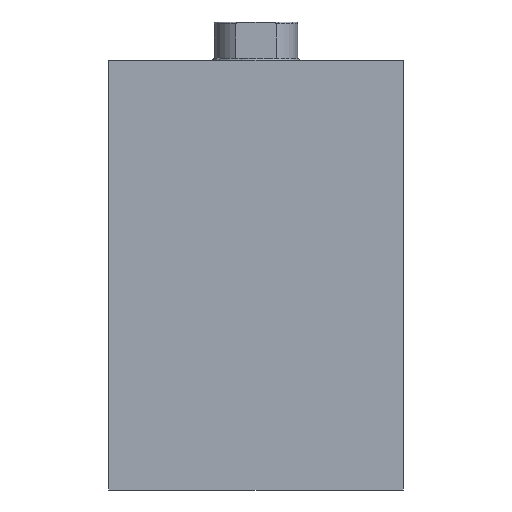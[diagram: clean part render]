
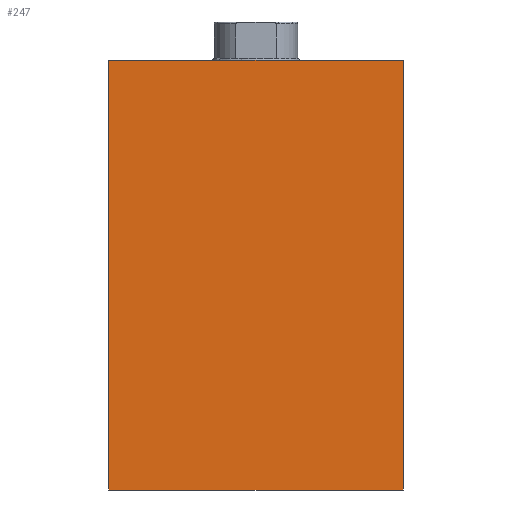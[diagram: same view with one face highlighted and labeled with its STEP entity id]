
A CAD part, left-side view. The second image highlights one B-rep face of the part: STEP entity #247.
In plain terms, the highlighted planar face has unit normal (-1, 0, 0) as drawn and (0, 0, -1) by its records, which use the part's own axes.
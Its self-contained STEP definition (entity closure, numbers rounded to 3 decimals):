
#247 = ADVANCED_FACE( '', ( #338 ), #339, .F. );
#338 = FACE_OUTER_BOUND( '', #554, .T. );
#339 = PLANE( '', #555 );
#554 = EDGE_LOOP( '', ( #789, #790, #791, #792 ) );
#555 = AXIS2_PLACEMENT_3D( '', #793, #794, #795 );
#789 = ORIENTED_EDGE( '', *, *, #1166, .T. );
#790 = ORIENTED_EDGE( '', *, *, #1183, .F. );
#791 = ORIENTED_EDGE( '', *, *, #1178, .F. );
#792 = ORIENTED_EDGE( '', *, *, #1182, .T. );
#793 = CARTESIAN_POINT( '', ( 124., -42.5, -31.5 ) );
#794 = DIRECTION( '', ( 0., 0., 1. ) );
#795 = DIRECTION( '', ( 1., 0., 0. ) );
#1166 = EDGE_CURVE( '', #1267, #1265, #1268, .T. );
#1178 = EDGE_CURVE( '', #1287, #1289, #1290, .T. );
#1182 = EDGE_CURVE( '', #1287, #1267, #1296, .T. );
#1183 = EDGE_CURVE( '', #1289, #1265, #1297, .T. );
#1265 = VERTEX_POINT( '', #1510 );
#1267 = VERTEX_POINT( '', #1513 );
#1268 = LINE( '', #1514, #1515 );
#1287 = VERTEX_POINT( '', #1706 );
#1289 = VERTEX_POINT( '', #1709 );
#1290 = LINE( '', #1710, #1711 );
#1296 = B_SPLINE_CURVE_WITH_KNOTS( '', 1, ( #1784, #1785 ), .UNSPECIFIED., .F., .F., ( 2, 2 ), ( 0., 1. ), .UNSPECIFIED. );
#1297 = B_SPLINE_CURVE_WITH_KNOTS( '', 1, ( #1786, #1787 ), .UNSPECIFIED., .F., .F., ( 2, 2 ), ( 0., 1. ), .UNSPECIFIED. );
#1510 = CARTESIAN_POINT( '', ( 0., 42.5, -31.5 ) );
#1513 = CARTESIAN_POINT( '', ( 0., -42.5, -31.5 ) );
#1514 = CARTESIAN_POINT( '', ( 0., -42.5, -31.5 ) );
#1515 = VECTOR( '', #4022, 1000. );
#1706 = CARTESIAN_POINT( '', ( 124., -42.5, -31.5 ) );
#1709 = CARTESIAN_POINT( '', ( 124., 42.5, -31.5 ) );
#1710 = CARTESIAN_POINT( '', ( 124., -42.5, -31.5 ) );
#1711 = VECTOR( '', #4029, 1000. );
#1784 = CARTESIAN_POINT( '', ( 124., -42.5, -31.5 ) );
#1785 = CARTESIAN_POINT( '', ( 0., -42.5, -31.5 ) );
#1786 = CARTESIAN_POINT( '', ( 124., 42.5, -31.5 ) );
#1787 = CARTESIAN_POINT( '', ( 0., 42.5, -31.5 ) );
#4022 = DIRECTION( '', ( 0., 1., 0. ) );
#4029 = DIRECTION( '', ( 0., 1., 0. ) );
